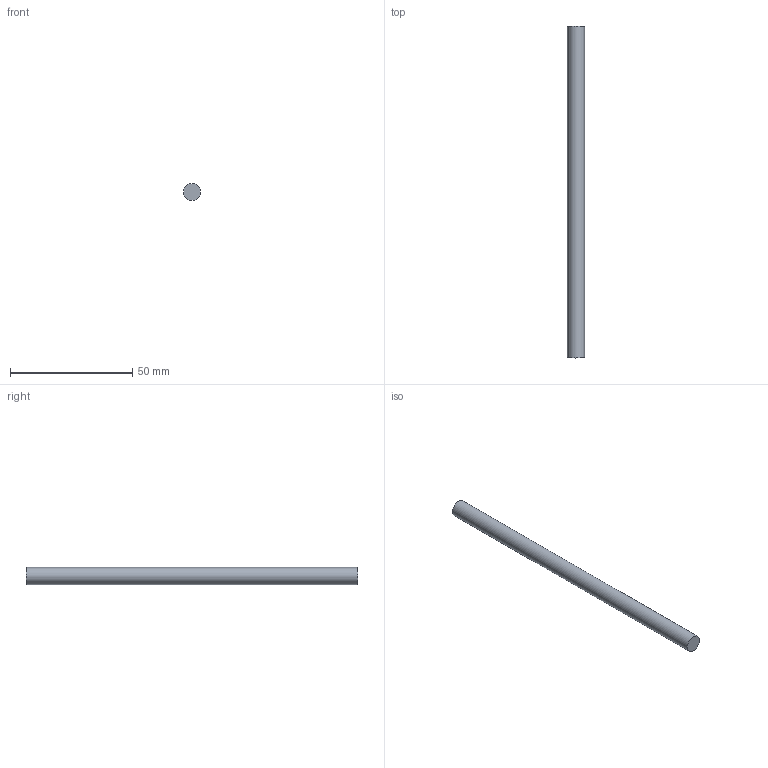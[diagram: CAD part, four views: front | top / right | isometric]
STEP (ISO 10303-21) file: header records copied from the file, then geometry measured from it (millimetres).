
FILE_DESCRIPTION(('Open CASCADE Model'),'2;1');
FILE_NAME('Open CASCADE Shape Model','2026-10-17T16:45:07',('Author'),( 'Open CASCADE'),'Open CASCADE STEP processor 8.0','build123d', 'Unknown');
FILE_SCHEMA(('AUTOMOTIVE_DESIGN { 1 0 10303 214 1 1 1 1 }'));
Length unit declared in the file: millimetre
Products named in the file (2): =>[0:1:1:2]; COMPOUND
Assembly tree (1 placements, depth 2):
  =>[0:1:1:2]
    COMPOUND
Bounding box: 7 x 136 x 7 mm (x, y, z)
Volume: 5233.9 mm3; surface area: 3067.8 mm2
Topology: 1 solids, 1 shells, 3 faces, 3 edges, 2 vertices
Faces by surface type: plane 2, cylinder 1
Full cylindrical faces by diameter (mm): 7 x1
Entity records: 126 total; most frequent: DIRECTION 21, CARTESIAN_POINT 16, AXIS2_PLACEMENT_3D 7, ORIENTED_EDGE 6, PCURVE 6, DEFINITIONAL_REPRESENTATION 6, LINE 5, VECTOR 5
